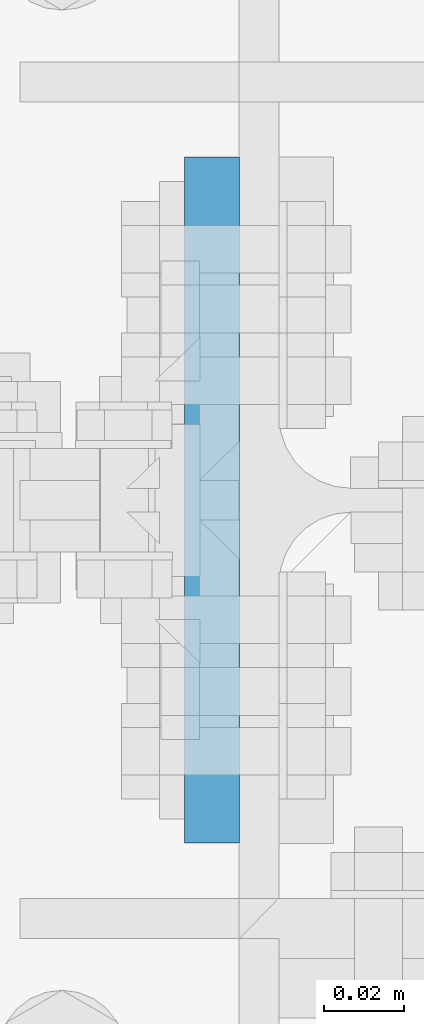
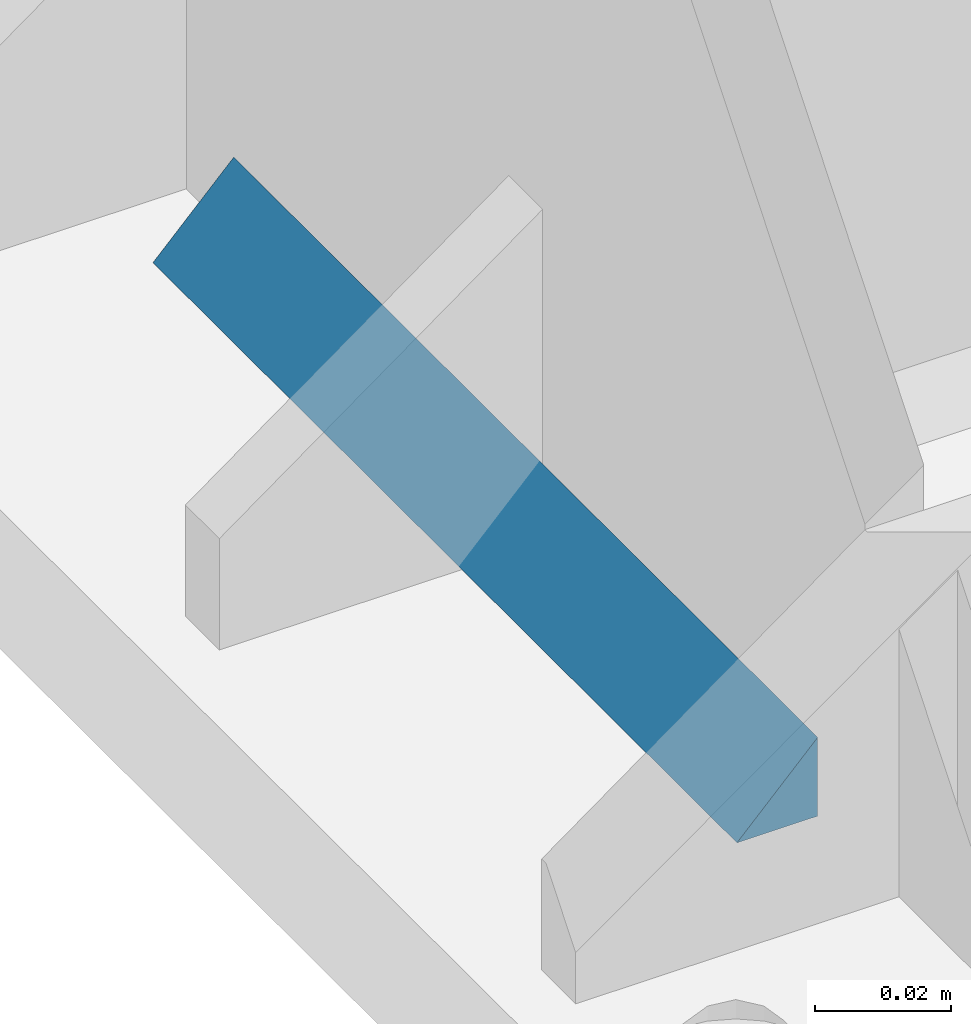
# One storey, part 53 of 251: 2 fasteners.
"""IFC4 building model written with IfcOpenShell, lengths in metres."""

from ifc_helpers import new_model, si_unit, frame, origin_with_axes, place, context, project, spatial, polyline, outline, extrude, type_object, element, save


model = new_model("IFC4")

# Units and contexts
model_context = context("Model", 3, precision=1e-05, world=origin_with_axes())
ifc_project = project(units=[si_unit("LENGTHUNIT", "METRE"), si_unit("AREAUNIT", "SQUARE_METRE"), si_unit("VOLUMEUNIT", "CUBIC_METRE"), si_unit("MASSUNIT", "GRAM", prefix="KILO"), si_unit("TIMEUNIT", "SECOND"), si_unit("PLANEANGLEUNIT", "RADIAN"), si_unit("SOLIDANGLEUNIT", "STERADIAN"), si_unit("THERMODYNAMICTEMPERATUREUNIT", "DEGREE_CELSIUS")], contexts=[model_context])

# Site, building, storey
placement_1 = place(None, origin_with_axes())
site = spatial("IfcSite", under=ifc_project, at=placement_1, Name="Italia", CompositionType="ELEMENT")
building = spatial("IfcBuilding", under=site, at=placement_1, Name="Deposito", CompositionType="ELEMENT")
storey = spatial("IfcBuildingStorey", under=building, at=placement_1, Name="Storey 0", CompositionType="ELEMENT", Elevation=0.0)

# Fasteners
fastener_type_1 = type_object("IfcFastenerType", Name="Collegamenti 0014_-001 0016_-054 0018_-056 0032_-002 0033_-058 0047_-003 0048_-060 0062_-004 0063_-005 0079_-008", PredefinedType="WELD")
placement_2 = place(placement_1, origin_with_axes())
fastener_1_placement = place(placement_2, origin_with_axes())
element("IfcFastener", 1, at=fastener_1_placement, inside=storey, type_object=fastener_type_1, Name="Collegamenti 0014_-001 0016_-054 0018_-056 0032_-002 0033_-058 0047_-003 0048_-060 0062_-004 0063_-005 0079_-008", context=model_context, shape_type="SweptSolid", body=[
    extrude(outline(polyline([(0.0, 0.0), (0.0137482, 0.0141734), (0.0137482, 0.0), (0.0, 0.0)])), frame((19.8913, 20.0861, 0.07495), z_axis=(0.0, -1.0, 0.0), x_axis=(1.0, 0.0, 0.0)), (0.0, 0.0, 1.0), 0.1721),
])
fastener_type_2 = type_object("IfcFastenerType", Name="Collegamenti 0014_-001 0016_-054 0018_-056 0032_-002 0033_-058 0047_-003 0048_-060 0062_-004 0063_-005 0079_-008", PredefinedType="WELD")
fastener_2_placement = place(placement_2, origin_with_axes())
element("IfcFastener", 2, at=fastener_2_placement, inside=storey, type_object=fastener_type_2, Name="Collegamenti 0014_-001 0016_-054 0018_-056 0032_-002 0033_-058 0047_-003 0048_-060 0062_-004 0063_-005 0079_-008", context=model_context, shape_type="SweptSolid", body=[
    extrude(outline(polyline([(0.0, 0.0), (0.0137482, 0.0141734), (0.0137482, 0.0), (0.0, 0.0)])), frame((19.8913, 20.0861, 0.07495), z_axis=(0.0, -1.0, 0.0), x_axis=(1.0, 0.0, 0.0)), (0.0, 0.0, 1.0), 0.1721),
])

save(model, "model.ifc")
